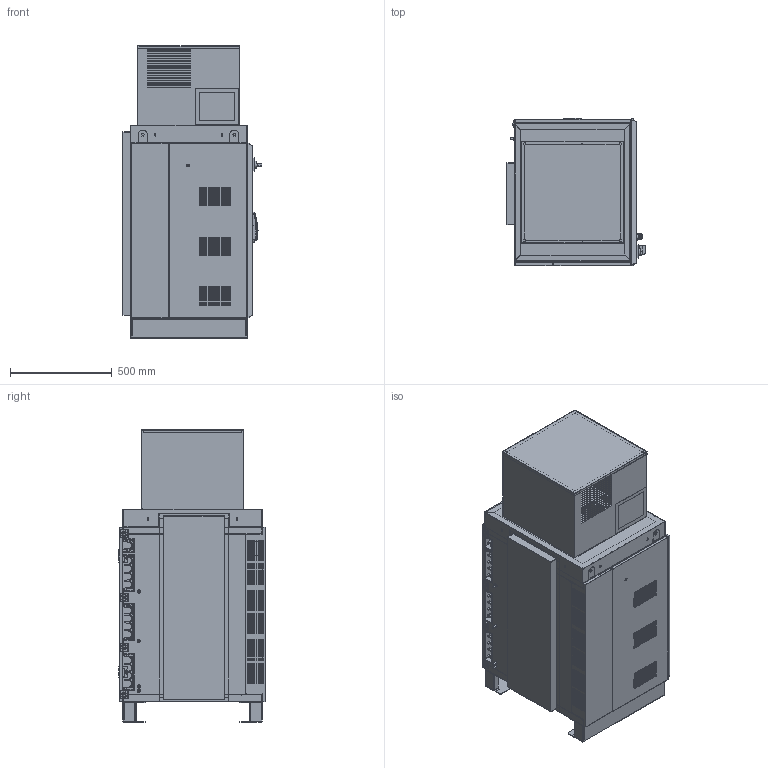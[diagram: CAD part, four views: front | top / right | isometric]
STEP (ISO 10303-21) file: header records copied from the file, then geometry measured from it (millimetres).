
FILE_DESCRIPTION(/* description */ (''),/* implementation_level */ '2;1');
FILE_NAME(/* name */ 'KRC5 CoolingCab 3HU.stp',/* time_stamp */ '2023-03-16T15:19:53+01:00',/* author */ (''),/* organization */ (''),/* preprocessor_version */ 'ST-DEVELOPER v18.102',/* originating_system */ 'SIEMENS PLM Software NX 2000',/* authorisation */ '');
FILE_SCHEMA (('AUTOMOTIVE_DESIGN { 1 0 10303 214 3 1 1 1 }'));
Products named in the file (1): Simplify2
Bounding box: 684.45 x 726 x 1439 mm (x, y, z)
Volume: 10041893.6 mm3; surface area: 12669032.5 mm2
Topology: 66 solids, 66 shells, 6952 faces, 19503 edges, 12824 vertices
Faces by surface type: plane 5524, bspline 591, cylinder 499, cone 188, torus 77, extrusion 69, sphere 4
Full cylindrical faces by diameter (mm): 3.5 x1, 4.5 x1, 6 x1, 8 x4, 9 x1, 12 x3, 13 x8, 14 x1, 16 x4, 24.8 x1
Entity records: 266701 total; most frequent: CARTESIAN_POINT 92119, ORIENTED_EDGE 38808, DIRECTION 31003, EDGE_CURVE 19404, VECTOR 15445, LINE 15376, VERTEX_POINT 12818, EDGE_LOOP 7834
